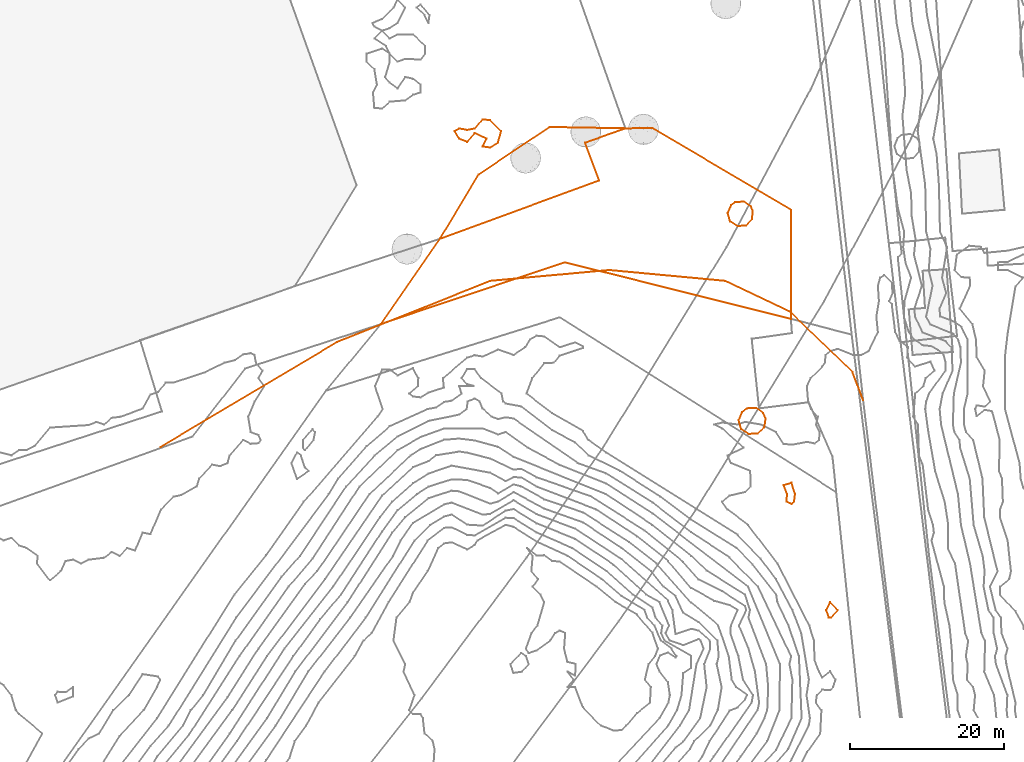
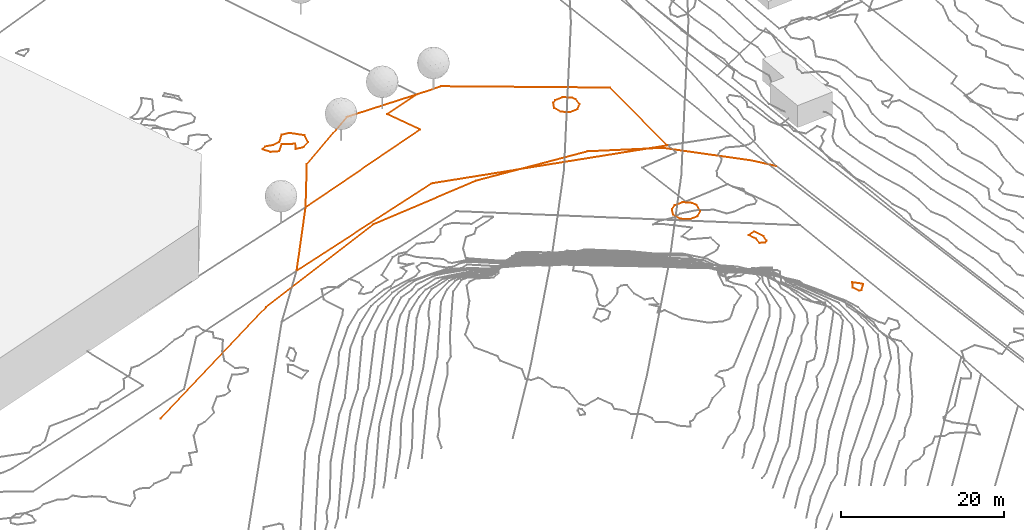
# Not in any storey, part 293 of 419: 8 proxies.
"""IFC2X3 model written with IfcOpenShell, lengths in metres."""

import ifcopenshell
import ifcopenshell.guid

model = None  # the IFC model being written
_history = None  # IfcOwnerHistory: only IFC2X3 demands one
_inside = {}  # id of a spatial element -> (the spatial element, [elements in it])
_under = {}  # id of a project, library or spatial element -> (it, [spatial elements below it])
_declared = {}  # id of a project -> (the project, [libraries it declares])
_typed = {}  # id of a type object -> (the type object, [elements of that type])
_made_of = {}  # id of a material, layer set ... -> (it, [elements and type objects made of it])


def new_model(schema):
    """Start an empty IFC model of exactly this schema.

    Asked for "IFC4X3", IfcOpenShell would pick the latest addendum, in which some entities
    have other attributes; the version numbers below select the first issue.
    IFC2X3 requires an IfcOwnerHistory on every rooted entity: one is made here for all.
    """
    global model, _history
    if schema == "IFC4X3":
        model = ifcopenshell.file(schema_version=(4, 3, 0, 0))
    else:
        model = ifcopenshell.file(schema=schema)
    _inside.clear()
    _under.clear()
    _declared.clear()
    _typed.clear()
    _made_of.clear()
    _history = None
    if model.schema == "IFC2X3":
        org = make("IfcOrganization", Name="unknown")
        user = make(
            "IfcPersonAndOrganization",
            ThePerson=make("IfcPerson", FamilyName="unknown"),
            TheOrganization=org,
        )
        app = make(
            "IfcApplication",
            ApplicationDeveloper=org,
            Version="unknown",
            ApplicationFullName="unknown",
            ApplicationIdentifier="unknown",
        )
        _history = make(
            "IfcOwnerHistory",
            OwningUser=user,
            OwningApplication=app,
            ChangeAction="ADDED",
            CreationDate=0,
        )
    return model


def make(cls, **values):
    """One entity of the class cls with the attributes given. An attribute that is None is left unset."""
    return model.create_entity(
        cls, **{name: value for name, value in values.items() if value is not None}
    )


def entity(cls, *values):
    """Any entity or typed value of the class cls, its attributes in the order of the schema. None: left unset."""
    e = model.create_entity(cls)
    for i, value in enumerate(values):
        if value is not None:
            e[i] = value
    return e


def rooted(cls, **values):
    """An entity with a GlobalId (a new one), such as an element, a storey or a relation."""
    return make(cls, GlobalId=ifcopenshell.guid.new(), OwnerHistory=_history, **values)


def si_unit(unit_type, name, prefix=None):
    """IfcSIUnit, for example si_unit("LENGTHUNIT", "METRE", prefix="MILLI")."""
    return make("IfcSIUnit", UnitType=unit_type, Prefix=prefix, Name=name)


def assignment(units):
    """IfcUnitAssignment: the units of a project."""
    return None if units is None else make("IfcUnitAssignment", Units=units)


def point(xyz):
    """IfcCartesianPoint."""
    return None if xyz is None else make("IfcCartesianPoint", Coordinates=xyz)


def direction(xyz):
    """IfcDirection."""
    return None if xyz is None else make("IfcDirection", DirectionRatios=xyz)


def frame(location, z_axis=None, x_axis=None):
    """IfcAxis2Placement3D, a coordinate frame: its origin and axes. An axis left out is left unset."""
    return make(
        "IfcAxis2Placement3D",
        Location=point(location),
        Axis=direction(z_axis),
        RefDirection=direction(x_axis),
    )


def origin_with_axes():
    """The frame at (0, 0, 0) with the z axis (0, 0, 1) and the x axis (1, 0, 0) written out."""
    return frame((0.0, 0.0, 0.0), z_axis=(0.0, 0.0, 1.0), x_axis=(1.0, 0.0, 0.0))


def place(relative_to, where):
    """IfcLocalPlacement: puts the frame where relative to a parent placement (None: the world)."""
    return make(
        "IfcLocalPlacement", PlacementRelTo=relative_to, RelativePlacement=where
    )


def context(
    kind, dimensions, precision=None, world=None, true_north=None, identifier=None
):
    """IfcGeometricRepresentationContext, for example the 3D "Model" context."""
    return make(
        "IfcGeometricRepresentationContext",
        ContextIdentifier=identifier,
        ContextType=kind,
        CoordinateSpaceDimension=dimensions,
        Precision=precision,
        WorldCoordinateSystem=world,
        TrueNorth=true_north,
    )


def subcontext(parent, identifier, kind, view, scale=None):
    """IfcGeometricRepresentationSubContext, for example "Body" below "Model"."""
    return make(
        "IfcGeometricRepresentationSubContext",
        ContextIdentifier=identifier,
        ContextType=kind,
        ParentContext=parent,
        TargetScale=scale,
        TargetView=view,
    )


def project(units=None, contexts=None):
    """IfcProject with its units and contexts."""
    return rooted(
        "IfcProject",
        Name="project",
        RepresentationContexts=contexts,
        UnitsInContext=assignment(units),
    )


def shape(context_of_items, identifier, shape_type, items):
    """IfcShapeRepresentation: the items that make up one representation, for example the "Body"."""
    return make(
        "IfcShapeRepresentation",
        ContextOfItems=context_of_items,
        RepresentationIdentifier=identifier,
        RepresentationType=shape_type,
        Items=items,
    )


def made_of(thing, what):
    """Note that an element or type object is made of a material, layer set ...; save() writes the relation."""
    if what is not None:
        _made_of.setdefault(what.id(), (what, []))[1].append(thing)
    return thing


def element(
    cls,
    number,
    at=None,
    inside=None,
    cuts=None,
    type_object=None,
    material=None,
    context=None,
    identifier="Body",
    shape_type=None,
    held_by="IfcProductDefinitionShape",
    body=None,
    shapes=None,
    **own,
):
    """One element of the class cls, such as IfcWall. Its Tag is "e" and its number.

    at: its placement. inside: the storey or other place that contains it. cuts: it is an
    opening in that element (IfcRelVoidsElement). A single representation is given by context,
    identifier, shape_type and body (its items); several are given by shapes. held_by: the class
    of the entity that holds the representations. save() writes the other relations.
    """
    e = rooted(cls, Tag="e%d" % number, ObjectPlacement=at, **own)
    if body is not None:
        shapes = [shape(context, identifier, shape_type, body)]
    if shapes is not None:
        e.Representation = make(held_by, Representations=shapes)
    if inside is not None:
        _inside.setdefault(inside.id(), (inside, []))[1].append(e)
    if cuts is not None:
        rooted(
            "IfcRelVoidsElement", RelatingBuildingElement=cuts, RelatedOpeningElement=e
        )
    if type_object is not None:
        _typed.setdefault(type_object.id(), (type_object, []))[1].append(e)
    return made_of(e, material)


def aggregate(whole, parts):
    """IfcRelAggregates: a whole, such as a stair, and the parts it consists of."""
    return rooted("IfcRelAggregates", RelatingObject=whole, RelatedObjects=parts)


def save(model, path):
    """Write the relations noted so far, then the file.

    IfcRelAggregates (storeys below a building ...), IfcRelContainedInSpatialStructure (elements
    in a storey), IfcRelDefinesByType, IfcRelAssociatesMaterial and IfcRelDeclares: one each for
    every whole, place, type object, material and project.
    """
    for whole, parts in _under.values():
        aggregate(whole, parts)
    for where, things in _inside.values():
        rooted(
            "IfcRelContainedInSpatialStructure",
            RelatedElements=things,
            RelatingStructure=where,
        )
    for kind, things in _typed.values():
        rooted("IfcRelDefinesByType", RelatedObjects=things, RelatingType=kind)
    for what, things in _made_of.values():
        rooted("IfcRelAssociatesMaterial", RelatedObjects=things, RelatingMaterial=what)
    for by, libraries in _declared.values():
        rooted("IfcRelDeclares", RelatingContext=by, RelatedDefinitions=libraries)
    model.write(path)


model = new_model("IFC2X3")

# Units and contexts
model_context = context("Model", 3, precision=1e-05, world=origin_with_axes())
body_context = subcontext(model_context, "Body", "Model", "MODEL_VIEW")
ifc_project = project(units=[si_unit("AREAUNIT", "SQUARE_METRE"), si_unit("LENGTHUNIT", "METRE")], contexts=[model_context])

# Proxies
proxy_1_placement = place(None, frame((38.3920204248, 820.9976909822, 18.7), z_axis=(0.0, 0.0, 1.0), x_axis=(1.0, 0.0, 0.0)))
element("IfcBuildingElementProxy", 1, at=proxy_1_placement, Name="Route 27", ObjectType="NOTDEFINED", context=body_context, shape_type="GeometricCurveSet", body=[
    entity("IfcGeometricCurveSet", [entity("IfcPolyline", [entity("IfcCartesianPoint", [91.0, 6.0, 2.4]), entity("IfcCartesianPoint", [89.6, 9.7000000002, 1.5]), entity("IfcCartesianPoint", [81.5, 17.5, 1.5]), entity("IfcCartesianPoint", [73.1, 21.5, 1.5]), entity("IfcCartesianPoint", [58.1, 22.9000000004, 1.5]), entity("IfcCartesianPoint", [42.7, 21.5, 1.2]), entity("IfcCartesianPoint", [22.8999999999, 13.6000000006, 0.5]), entity("IfcCartesianPoint", [0.0, 0.0, 0.0])])]),
])
proxy_2_placement = place(None, frame((111.8420204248, 851.2876909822, 21.2603002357), z_axis=(0.0, 0.0, 1.0), x_axis=(1.0, 0.0, 0.0)))
element("IfcBuildingElementProxy", 2, at=proxy_2_placement, Name="Cadastre 298", ObjectType="NOTDEFINED", context=body_context, shape_type="GeometricCurveSet", body=[
    entity("IfcGeometricCurveSet", [entity("IfcPolyline", [entity("IfcCartesianPoint", [3.24, 0.3300000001, -0.0230005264]), entity("IfcCartesianPoint", [3.15, -0.7899999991, -0.0117002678]), entity("IfcCartesianPoint", [2.37, -1.5999999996, -0.0245005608]), entity("IfcCartesianPoint", [1.25, -1.71, -0.0267006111]), entity("IfcCartesianPoint", [0.3100000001, -1.0799999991, -0.0168283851]), entity("IfcCartesianPoint", [0.0, 0.0, 0.0]), entity("IfcCartesianPoint", [0.4500000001, 1.04, 0.0029800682]), entity("IfcCartesianPoint", [0.9500000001, 1.3900000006, 0.0019400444]), entity("IfcCartesianPoint", [2.0700000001, 1.4900000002, -0.0022840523]), entity("IfcCartesianPoint", [3.0, 0.8400000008, -0.0155003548]), entity("IfcCartesianPoint", [3.24, 0.3300000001, -0.0230005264])])]),
])
proxy_3_placement = place(None, frame((66.9320204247, 836.9076909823, 21.25), z_axis=(0.0, 0.0, 1.0), x_axis=(1.0, 0.0, 0.0)))
element("IfcBuildingElementProxy", 3, at=proxy_3_placement, Name="Cadastre 300", ObjectType="NOTDEFINED", context=body_context, shape_type="GeometricCurveSet", body=[
    entity("IfcGeometricCurveSet", [entity("IfcPolyline", [entity("IfcCartesianPoint", [0.0, 0.0, 0.0]), entity("IfcCartesianPoint", [7.65, 11.04, 0.1708548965]), entity("IfcCartesianPoint", [28.28, 18.5900000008, 0.0516192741]), entity("IfcCartesianPoint", [26.4300000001, 23.4800000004, 0.040200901]), entity("IfcCartesianPoint", [31.6900000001, 25.3400000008, 0.0229555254]), entity("IfcCartesianPoint", [35.1800000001, 25.3500000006, 0.0260725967]), entity("IfcCartesianPoint", [53.1000000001, 14.79, -0.0430803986]), entity("IfcCartesianPoint", [53.1000000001, 0.6600000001, -0.1500436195]), entity("IfcCartesianPoint", [23.78, 7.9900000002, -0.0429999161]), entity("IfcCartesianPoint", [0.0, 0.0, 0.0])])]),
])
proxy_4_placement = place(None, frame((74.5820204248, 847.9476909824, 21.4208548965), z_axis=(0.0, 0.0, 1.0), x_axis=(1.0, 0.0, 0.0)))
element("IfcBuildingElementProxy", 4, at=proxy_4_placement, Name="Cadastre 301", ObjectType="NOTDEFINED", context=body_context, shape_type="GeometricCurveSet", body=[
    entity("IfcGeometricCurveSet", [entity("IfcPolyline", [entity("IfcCartesianPoint", [24.04, 14.3000000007, -0.1478993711]), entity("IfcCartesianPoint", [18.78, 12.4400000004, -0.1306539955]), entity("IfcCartesianPoint", [20.63, 7.5500000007, -0.1192356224]), entity("IfcCartesianPoint", [0.0, 0.0, 0.0]), entity("IfcCartesianPoint", [4.98, 8.3200000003, -0.2985322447]), entity("IfcCartesianPoint", [14.2100000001, 14.4700000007, -0.1930154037]), entity("IfcCartesianPoint", [24.04, 14.3000000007, -0.1478993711])])]),
])
proxy_5_placement = place(None, frame((113.2520204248, 824.4476909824, 20.9948998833), z_axis=(0.0, 0.0, 1.0), x_axis=(1.0, 0.0, 0.0)))
element("IfcBuildingElementProxy", 5, at=proxy_5_placement, Name="Cadastre 393", ObjectType="NOTDEFINED", context=body_context, shape_type="GeometricCurveSet", body=[
    entity("IfcGeometricCurveSet", [entity("IfcPolyline", [entity("IfcCartesianPoint", [3.5, 0.2400000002, 0.0625008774]), entity("IfcCartesianPoint", [3.3199999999, -0.9100000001, -0.0324111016]), entity("IfcCartesianPoint", [2.46, -1.6899999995, -0.0569313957]), entity("IfcCartesianPoint", [1.2999999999, -1.7699999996, -0.0486117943]), entity("IfcCartesianPoint", [0.33, -1.1299999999, -0.0257685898]), entity("IfcCartesianPoint", [0.0, 0.0, 0.0]), entity("IfcCartesianPoint", [0.4399999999, 1.0800000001, 0.0405404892]), entity("IfcCartesianPoint", [1.1, 1.5500000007, 0.1003797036]), entity("IfcCartesianPoint", [2.26, 1.6100000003, 0.126755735]), entity("IfcCartesianPoint", [3.2, 0.9300000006, 0.1024164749]), entity("IfcCartesianPoint", [3.5, 0.2400000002, 0.0625008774])])]),
])
proxy_6_placement = place(None, frame((76.4920204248, 861.8976909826, 21.0), z_axis=(0.0, 0.0, 1.0), x_axis=(1.0, 0.0, 0.0)))
element("IfcBuildingElementProxy", 6, at=proxy_6_placement, Name="Contour 21.0 m", ObjectType="NOTDEFINED", context=body_context, shape_type="GeometricCurveSet", body=[
    entity("IfcGeometricCurveSet", [entity("IfcPolyline", [entity("IfcCartesianPoint", [4.6, -2.1428610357, 0.0]), entity("IfcCartesianPoint", [5.6, -1.4999500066, 0.0]), entity("IfcCartesianPoint", [6.0, 0.0, 0.0]), entity("IfcCartesianPoint", [4.6, 1.4000000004, 0.0]), entity("IfcCartesianPoint", [3.6, 1.4999500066, 0.0]), entity("IfcCartesianPoint", [2.6, 0.333333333, 0.0]), entity("IfcCartesianPoint", [1.6, 0.1428610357, 0.0]), entity("IfcCartesianPoint", [0.6, 0.333340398, 0.0]), entity("IfcCartesianPoint", [0.0, 0.0, 0.0]), entity("IfcCartesianPoint", [0.6, -0.9999666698, 0.0]), entity("IfcCartesianPoint", [1.6, -1.4000000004, 0.0]), entity("IfcCartesianPoint", [2.6, -0.25, 0.0]), entity("IfcCartesianPoint", [4.1000499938, -1.0, 0.0]), entity("IfcCartesianPoint", [3.6000999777, -2.0, 0.0]), entity("IfcCartesianPoint", [4.6, -2.1428610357, 0.0])])]),
])
proxy_7_placement = place(None, frame((119.0920204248, 816.0405520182, 21.0), z_axis=(0.0, 0.0, 1.0), x_axis=(1.0, 0.0, 0.0)))
element("IfcBuildingElementProxy", 7, at=proxy_7_placement, Name="Contour 21.0 m", ObjectType="NOTDEFINED", context=body_context, shape_type="GeometricCurveSet", body=[
    entity("IfcGeometricCurveSet", [entity("IfcPolyline", [entity("IfcCartesianPoint", [1.3333333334, -2.1428610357, 0.0]), entity("IfcCartesianPoint", [1.0, -2.4228598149, 0.0]), entity("IfcCartesianPoint", [0.3636426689, -2.1428610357, 0.0]), entity("IfcCartesianPoint", [0.4285701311, -1.1428610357, 0.0]), entity("IfcCartesianPoint", [0.0, 0.0, 0.0]), entity("IfcCartesianPoint", [1.0, 0.3186762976, 0.0]), entity("IfcCartesianPoint", [1.4615412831, -1.1428610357, 0.0]), entity("IfcCartesianPoint", [1.3333333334, -2.1428610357, 0.0])])]),
])
proxy_8_placement = place(None, frame((124.608149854, 799.8976909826, 21.0), z_axis=(0.0, 0.0, 1.0), x_axis=(1.0, 0.0, 0.0)))
element("IfcBuildingElementProxy", 8, at=proxy_8_placement, Name="Contour 21.0 m", ObjectType="NOTDEFINED", context=body_context, shape_type="GeometricCurveSet", body=[
    entity("IfcGeometricCurveSet", [entity("IfcPolyline", [entity("IfcCartesianPoint", [0.6417684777, -1.0, 0.0]), entity("IfcCartesianPoint", [0.3259726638, -1.0, 0.0]), entity("IfcCartesianPoint", [0.0, 0.0, 0.0]), entity("IfcCartesianPoint", [0.4838705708, 1.0000032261, 0.0]), entity("IfcCartesianPoint", [1.4838721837, 0.0, 0.0]), entity("IfcCartesianPoint", [0.6417684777, -1.0, 0.0])])]),
])

save(model, "model.ifc")
